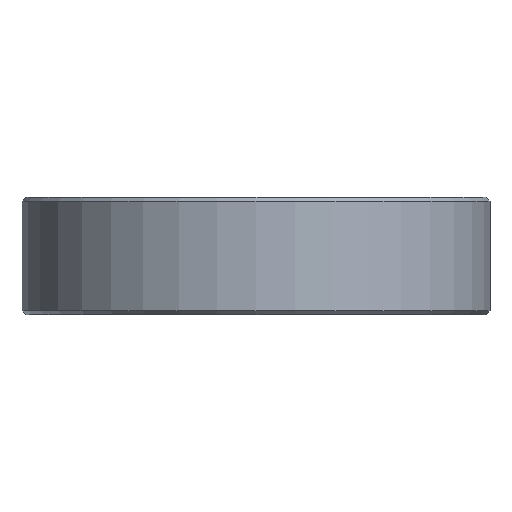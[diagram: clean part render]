
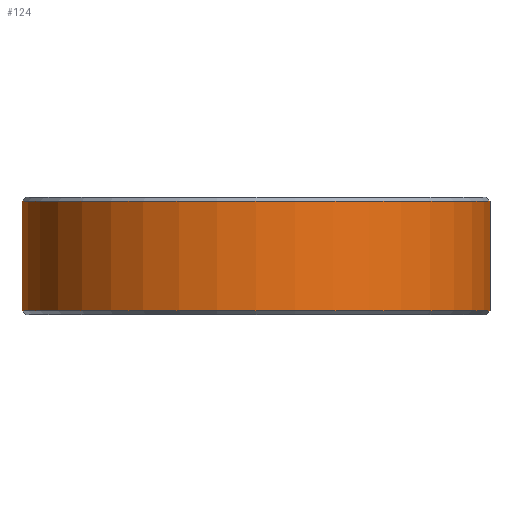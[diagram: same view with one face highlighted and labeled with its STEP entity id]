
A CAD part, front view. The second image highlights one B-rep face of the part: STEP entity #124.
In plain terms, the highlighted cylindrical face has radius 30 mm (diameter 60 mm), a partial arc.
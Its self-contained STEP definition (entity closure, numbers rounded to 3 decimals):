
#124 = ADVANCED_FACE( '', ( #259 ), #260, .T. );
#259 = FACE_OUTER_BOUND( '', #403, .T. );
#260 = CYLINDRICAL_SURFACE( '', #404, 30. );
#403 = EDGE_LOOP( '', ( #752, #753, #754, #755 ) );
#404 = AXIS2_PLACEMENT_3D( '', #756, #757, #758 );
#752 = ORIENTED_EDGE( '', *, *, #913, .T. );
#753 = ORIENTED_EDGE( '', *, *, #813, .T. );
#754 = ORIENTED_EDGE( '', *, *, #910, .F. );
#755 = ORIENTED_EDGE( '', *, *, #914, .T. );
#756 = CARTESIAN_POINT( '', ( 0., 0., 7.5 ) );
#757 = DIRECTION( '', ( 0., 0., -1. ) );
#758 = DIRECTION( '', ( 1., 0., 0. ) );
#813 = EDGE_CURVE( '', #929, #927, #930, .T. );
#910 = EDGE_CURVE( '', #1099, #927, #1100, .T. );
#913 = EDGE_CURVE( '', #1104, #929, #1105, .T. );
#914 = EDGE_CURVE( '', #1099, #1104, #1106, .F. );
#927 = VERTEX_POINT( '', #1124 );
#929 = VERTEX_POINT( '', #1129 );
#930 = LINE( '', #1130, #1131 );
#1099 = VERTEX_POINT( '', #1546 );
#1100 = CIRCLE( '', #1547, 30. );
#1104 = VERTEX_POINT( '', #1554 );
#1105 = CIRCLE( '', #1555, 30. );
#1106 = LINE( '', #1556, #1557 );
#1124 = CARTESIAN_POINT( '', ( 29.933, -2., 7. ) );
#1129 = CARTESIAN_POINT( '', ( 29.933, -2., -7. ) );
#1130 = CARTESIAN_POINT( '', ( 29.933, -2., 7.5 ) );
#1131 = VECTOR( '', #1570, 1000. );
#1546 = CARTESIAN_POINT( '', ( -29.933, -2., 7. ) );
#1547 = AXIS2_PLACEMENT_3D( '', #1723, #1724, #1725 );
#1554 = CARTESIAN_POINT( '', ( -29.933, -2., -7. ) );
#1555 = AXIS2_PLACEMENT_3D( '', #1729, #1730, #1731 );
#1556 = CARTESIAN_POINT( '', ( -29.933, -2., 7.5 ) );
#1557 = VECTOR( '', #1732, 1000. );
#1570 = DIRECTION( '', ( 0., 0., 1. ) );
#1723 = CARTESIAN_POINT( '', ( 0., 0., 7. ) );
#1724 = DIRECTION( '', ( 0., 0., 1. ) );
#1725 = DIRECTION( '', ( 1., 0., 0. ) );
#1729 = CARTESIAN_POINT( '', ( 0., 0., -7. ) );
#1730 = DIRECTION( '', ( 0., 0., 1. ) );
#1731 = DIRECTION( '', ( 1., 0., 0. ) );
#1732 = DIRECTION( '', ( 0., 0., 1. ) );
